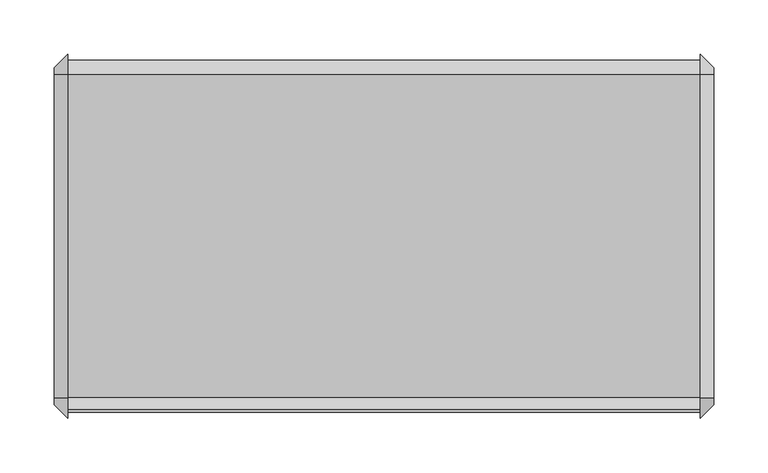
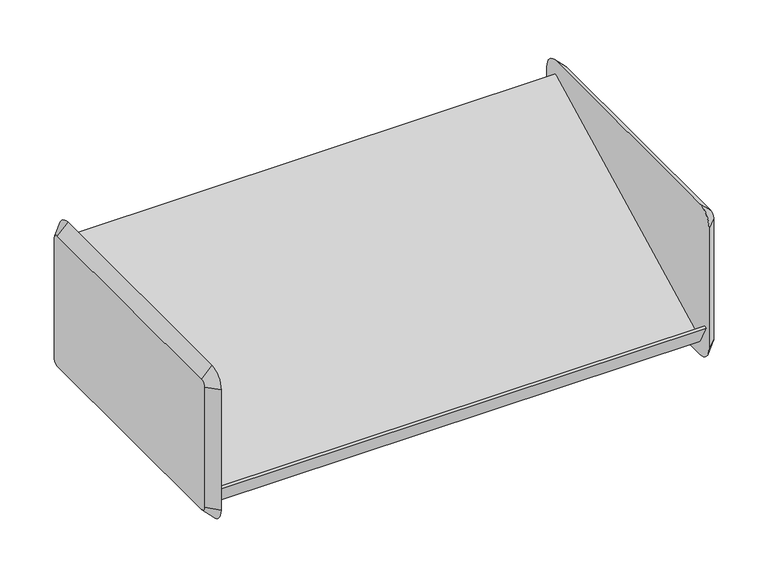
"""IFC4 building model written with IfcOpenShell, lengths in millimetres: furniture geometry."""

import ifcopenshell
import ifcopenshell.guid

model = None  # the IFC model being written
_history = None  # IfcOwnerHistory: only IFC2X3 demands one
_inside = {}  # id of a spatial element -> (the spatial element, [elements in it])
_under = {}  # id of a project, library or spatial element -> (it, [spatial elements below it])
_declared = {}  # id of a project -> (the project, [libraries it declares])
_typed = {}  # id of a type object -> (the type object, [elements of that type])
_made_of = {}  # id of a material, layer set ... -> (it, [elements and type objects made of it])


def new_model(schema):
    """Start an empty IFC model of exactly this schema.

    Asked for "IFC4X3", IfcOpenShell would pick the latest addendum, in which some entities
    have other attributes; the version numbers below select the first issue.
    IFC2X3 requires an IfcOwnerHistory on every rooted entity: one is made here for all.
    """
    global model, _history
    if schema == "IFC4X3":
        model = ifcopenshell.file(schema_version=(4, 3, 0, 0))
    else:
        model = ifcopenshell.file(schema=schema)
    _inside.clear()
    _under.clear()
    _declared.clear()
    _typed.clear()
    _made_of.clear()
    _history = None
    if model.schema == "IFC2X3":
        org = make("IfcOrganization", Name="unknown")
        user = make(
            "IfcPersonAndOrganization",
            ThePerson=make("IfcPerson", FamilyName="unknown"),
            TheOrganization=org,
        )
        app = make(
            "IfcApplication",
            ApplicationDeveloper=org,
            Version="unknown",
            ApplicationFullName="unknown",
            ApplicationIdentifier="unknown",
        )
        _history = make(
            "IfcOwnerHistory",
            OwningUser=user,
            OwningApplication=app,
            ChangeAction="ADDED",
            CreationDate=0,
        )
    return model


def make(cls, **values):
    """One entity of the class cls with the attributes given. An attribute that is None is left unset."""
    return model.create_entity(
        cls, **{name: value for name, value in values.items() if value is not None}
    )


def rooted(cls, **values):
    """An entity with a GlobalId (a new one), such as an element, a storey or a relation."""
    return make(cls, GlobalId=ifcopenshell.guid.new(), OwnerHistory=_history, **values)


def si_unit(unit_type, name, prefix=None):
    """IfcSIUnit, for example si_unit("LENGTHUNIT", "METRE", prefix="MILLI")."""
    return make("IfcSIUnit", UnitType=unit_type, Prefix=prefix, Name=name)


def assignment(units):
    """IfcUnitAssignment: the units of a project."""
    return None if units is None else make("IfcUnitAssignment", Units=units)


def point(xyz):
    """IfcCartesianPoint."""
    return None if xyz is None else make("IfcCartesianPoint", Coordinates=xyz)


def direction(xyz):
    """IfcDirection."""
    return None if xyz is None else make("IfcDirection", DirectionRatios=xyz)


def frame(location, z_axis=None, x_axis=None):
    """IfcAxis2Placement3D, a coordinate frame: its origin and axes. An axis left out is left unset."""
    return make(
        "IfcAxis2Placement3D",
        Location=point(location),
        Axis=direction(z_axis),
        RefDirection=direction(x_axis),
    )


def origin():
    """The frame at (0, 0, 0) with its axes left unset."""
    return frame((0.0, 0.0, 0.0))


def place(relative_to, where):
    """IfcLocalPlacement: puts the frame where relative to a parent placement (None: the world)."""
    return make(
        "IfcLocalPlacement", PlacementRelTo=relative_to, RelativePlacement=where
    )


def context(
    kind, dimensions, precision=None, world=None, true_north=None, identifier=None
):
    """IfcGeometricRepresentationContext, for example the 3D "Model" context."""
    return make(
        "IfcGeometricRepresentationContext",
        ContextIdentifier=identifier,
        ContextType=kind,
        CoordinateSpaceDimension=dimensions,
        Precision=precision,
        WorldCoordinateSystem=world,
        TrueNorth=true_north,
    )


def project(units=None, contexts=None):
    """IfcProject with its units and contexts."""
    return rooted(
        "IfcProject",
        Name="project",
        RepresentationContexts=contexts,
        UnitsInContext=assignment(units),
    )


def spatial(cls, under=None, at=None, **own):
    """A site, building, storey or space (cls), placed at a placement, below another one or the project."""
    s = rooted(cls, ObjectPlacement=at, **own)
    if under is not None:
        _under.setdefault(under.id(), (under, []))[1].append(s)
    return s


def polyline(points):
    """IfcPolyline through the points."""
    return make("IfcPolyline", Points=[point(p) for p in points])


def circle_curve(where, radius):
    """IfcCircle in the frame where."""
    return make("IfcCircle", Position=where, Radius=radius)


def outline(outer, holes=None, kind="AREA"):
    """IfcArbitraryClosedProfileDef: a profile drawn as a closed curve; with holes, ...WithVoids."""
    if holes is None:
        return make("IfcArbitraryClosedProfileDef", ProfileType=kind, OuterCurve=outer)
    return make(
        "IfcArbitraryProfileDefWithVoids",
        ProfileType=kind,
        OuterCurve=outer,
        InnerCurves=holes,
    )


def extrude(swept, where, along, depth):
    """IfcExtrudedAreaSolid: the profile swept, set in the frame where, extruded along a direction by depth."""
    return make(
        "IfcExtrudedAreaSolid",
        SweptArea=swept,
        Position=where,
        ExtrudedDirection=direction(along),
        Depth=depth,
    )


def shape(context_of_items, identifier, shape_type, items):
    """IfcShapeRepresentation: the items that make up one representation, for example the "Body"."""
    return make(
        "IfcShapeRepresentation",
        ContextOfItems=context_of_items,
        RepresentationIdentifier=identifier,
        RepresentationType=shape_type,
        Items=items,
    )


def source(mapping_origin, context_of_items, identifier, shape_type, items):
    """IfcRepresentationMap: a shape defined once, which mapped items show again and again."""
    return make(
        "IfcRepresentationMap",
        MappingOrigin=mapping_origin,
        MappedRepresentation=shape(context_of_items, identifier, shape_type, items),
    )


def transform(
    local_origin,
    x_axis=None,
    y_axis=None,
    z_axis=None,
    scale=None,
    scale2=None,
    scale3=None,
    uniform=True,
):
    """IfcCartesianTransformationOperator3D, or its non-uniform kind. x_axis, y_axis, z_axis: its Axis1, 2, 3."""
    if uniform:
        return make(
            "IfcCartesianTransformationOperator3D",
            Axis1=direction(x_axis),
            Axis2=direction(y_axis),
            LocalOrigin=point(local_origin),
            Scale=scale,
            Axis3=direction(z_axis),
        )
    return make(
        "IfcCartesianTransformationOperator3DnonUniform",
        Axis1=direction(x_axis),
        Axis2=direction(y_axis),
        LocalOrigin=point(local_origin),
        Scale=scale,
        Axis3=direction(z_axis),
        Scale2=scale2,
        Scale3=scale3,
    )


def mapped(mapping_source, mapping_target):
    """IfcMappedItem: shows the shape of a source again, moved by a transform."""
    return make(
        "IfcMappedItem", MappingSource=mapping_source, MappingTarget=mapping_target
    )


def made_of(thing, what):
    """Note that an element or type object is made of a material, layer set ...; save() writes the relation."""
    if what is not None:
        _made_of.setdefault(what.id(), (what, []))[1].append(thing)
    return thing


def element(
    cls,
    number,
    at=None,
    inside=None,
    cuts=None,
    type_object=None,
    material=None,
    context=None,
    identifier="Body",
    shape_type=None,
    held_by="IfcProductDefinitionShape",
    body=None,
    shapes=None,
    **own,
):
    """One element of the class cls, such as IfcWall. Its Tag is "e" and its number.

    at: its placement. inside: the storey or other place that contains it. cuts: it is an
    opening in that element (IfcRelVoidsElement). A single representation is given by context,
    identifier, shape_type and body (its items); several are given by shapes. held_by: the class
    of the entity that holds the representations. save() writes the other relations.
    """
    e = rooted(cls, Tag="e%d" % number, ObjectPlacement=at, **own)
    if body is not None:
        shapes = [shape(context, identifier, shape_type, body)]
    if shapes is not None:
        e.Representation = make(held_by, Representations=shapes)
    if inside is not None:
        _inside.setdefault(inside.id(), (inside, []))[1].append(e)
    if cuts is not None:
        rooted(
            "IfcRelVoidsElement", RelatingBuildingElement=cuts, RelatedOpeningElement=e
        )
    if type_object is not None:
        _typed.setdefault(type_object.id(), (type_object, []))[1].append(e)
    return made_of(e, material)


def aggregate(whole, parts):
    """IfcRelAggregates: a whole, such as a stair, and the parts it consists of."""
    return rooted("IfcRelAggregates", RelatingObject=whole, RelatedObjects=parts)


def save(model, path):
    """Write the relations noted so far, then the file.

    IfcRelAggregates (storeys below a building ...), IfcRelContainedInSpatialStructure (elements
    in a storey), IfcRelDefinesByType, IfcRelAssociatesMaterial and IfcRelDeclares: one each for
    every whole, place, type object, material and project.
    """
    for whole, parts in _under.values():
        aggregate(whole, parts)
    for where, things in _inside.values():
        rooted(
            "IfcRelContainedInSpatialStructure",
            RelatedElements=things,
            RelatingStructure=where,
        )
    for kind, things in _typed.values():
        rooted("IfcRelDefinesByType", RelatedObjects=things, RelatingType=kind)
    for what, things in _made_of.values():
        rooted("IfcRelAssociatesMaterial", RelatedObjects=things, RelatingMaterial=what)
    for by, libraries in _declared.values():
        rooted("IfcRelDeclares", RelatingContext=by, RelatedDefinitions=libraries)
    model.write(path)


def plane_surface(at):
    """IfcPlane: the flat surface through the origin of the frame at, square to its z axis."""
    return make("IfcPlane", Position=at)


def revolved_surface(curve, axis_point, axis_direction):
    """IfcSurfaceOfRevolution: the curve turned about the line through axis_point along axis_direction."""
    return make(
        "IfcSurfaceOfRevolution",
        SweptCurve=make("IfcArbitraryOpenProfileDef", ProfileType="CURVE", Curve=curve),
        AxisPosition=make("IfcAxis1Placement", Location=point(axis_point), Axis=direction(axis_direction)),
    )


def advanced_brep(points, edges, surfaces, faces):
    """IfcAdvancedBrep: a solid bounded by faces that lie on surfaces and meet in shared edges.

    An edge is (start, end): straight between two places in points (the first is 0);
    or (start, end, curve); or (start, end, curve, False) where it runs against its curve.
    A face is (place in surfaces, loops), or (place, loops, False) where it looks against
    its surface's normal. A loop lists edges by number (the first is 1), with a minus sign
    where the edge is run from its end to its start. The first loop is the outer one.
    """
    corners = [point(p) for p in points]
    vertices = [make("IfcVertexPoint", VertexGeometry=c) for c in corners]
    made = []
    for start, end, *more in edges:
        made.append(
            make(
                "IfcEdgeCurve",
                EdgeStart=vertices[start],
                EdgeEnd=vertices[end],
                EdgeGeometry=more[0] if more else make("IfcPolyline", Points=[corners[start], corners[end]]),
                SameSense=more[1] if len(more) > 1 else True,
            )
        )
    hull = []
    for where, loops, *sense in faces:
        bounds = []
        for j, loop in enumerate(loops):
            ring = [make("IfcOrientedEdge", EdgeElement=made[abs(k) - 1], Orientation=k > 0) for k in loop]
            bounds.append(
                make(
                    "IfcFaceOuterBound" if j == 0 else "IfcFaceBound",
                    Bound=make("IfcEdgeLoop", EdgeList=ring),
                    Orientation=True,
                )
            )
        hull.append(make("IfcAdvancedFace", Bounds=bounds, FaceSurface=surfaces[where], SameSense=sense[0] if sense else True))
    return make("IfcAdvancedBrep", Outer=make("IfcClosedShell", CfsFaces=hull))


def furniture_bda8002d(model_context):
    return source(origin(), model_context, "Body", "SolidModel", [
        advanced_brep(
        [(180.8579955, 161.925, 1689.1), (180.8579955, -136.525, 1689.1), (180.8579955, -142.875, 1682.75), (180.8579955, -142.875, 1530.35), (180.8579955, -136.525, 1524.0), (180.8579955, 161.925, 1524.0), (180.8579955, 168.275, 1530.35), (180.8579955, 168.275, 1682.75), (168.1579955, 161.925, 1701.8), (168.1579955, 180.975, 1682.75), (168.1579955, 180.975, 1530.35), (168.1579955, 161.925, 1511.3), (168.1579955, -136.525, 1511.3), (168.1579955, -155.575, 1530.35), (168.1579955, -155.575, 1682.75), (168.1579955, -136.525, 1701.8)],
        [
            (0, 1),
            (1, 2, circle_curve(frame((180.8579955, -136.525, 1682.75), z_axis=(1.0, 2.0730084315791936e-12, -2.1742607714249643e-12), x_axis=(2.1742640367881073e-12, 0.0, 1.0)), 6.35)),
            (2, 3),
            (3, 4, circle_curve(frame((180.8579955, -136.525, 1530.35), z_axis=(1.0, 2.061018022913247e-12, 2.0463630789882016e-12), x_axis=(2.0610603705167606e-12, -1.0, 0.0)), 6.35)),
            (4, 5),
            (5, 6, circle_curve(frame((180.8579955, 161.925, 1530.35), z_axis=(1.0, 2.088995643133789e-12, -2.1103119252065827e-12), x_axis=(-2.1103612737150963e-12, 0.0, -1.0)), 6.35)),
            (6, 7),
            (7, 0, circle_curve(frame((180.8579955, 161.925, 1682.75), z_axis=(1.0, 2.0783375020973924e-12, 1.9824142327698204e-12), x_axis=(-2.0783313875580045e-12, 1.0, 0.0)), 6.35)),
            (8, 9, circle_curve(frame((168.1579955, 161.925, 1682.75), z_axis=(-1.0, -2.0783375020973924e-12, -1.9824142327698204e-12), x_axis=(-2.0783313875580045e-12, 1.0, 0.0)), 19.05)),
            (9, 10),
            (10, 11, circle_curve(frame((168.1579955, 161.925, 1530.35), z_axis=(-1.0, -2.088995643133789e-12, 2.1103119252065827e-12), x_axis=(-2.1103612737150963e-12, 0.0, -1.0)), 19.05)),
            (11, 12),
            (12, 13, circle_curve(frame((168.1579955, -136.525, 1530.35), z_axis=(-1.0, -2.061018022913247e-12, -2.0463630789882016e-12), x_axis=(2.0610603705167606e-12, -1.0, 0.0)), 19.05)),
            (13, 14),
            (14, 15, circle_curve(frame((168.1579955, -136.525, 1682.75), z_axis=(-1.0, -2.0730084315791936e-12, 2.1742607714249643e-12), x_axis=(2.1742640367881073e-12, 0.0, 1.0)), 19.05)),
            (15, 8),
            (15, 1),
            (0, 8),
            (14, 2),
            (13, 3),
            (12, 4),
            (11, 5),
            (10, 6),
            (9, 7),
        ],
        [
            plane_surface(frame((180.8579955, 12.7, 1606.55), z_axis=(1.0, 0.0, 0.0), x_axis=(0.0, -1.0, 0.0))),
            plane_surface(frame((168.1579955, 12.7, 1606.55), z_axis=(-1.0, 0.0, 0.0), x_axis=(0.0, -1.0, 0.0))),
            plane_surface(frame((168.1579955, 12.7, 1701.8), z_axis=(0.7071067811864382, 0.0, 0.7071067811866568), x_axis=(0.0, -1.0, 0.0))),
            revolved_surface(polyline([(180.8579955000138, -136.525, 1689.0999999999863), (168.1579955, -136.525, 1701.8)]), (187.2079955, -136.525, 1682.75), (-1.0, -2.0730084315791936e-12, 2.1742607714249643e-12)),
            plane_surface(frame((168.1579955, -155.575, 1606.55), z_axis=(0.707106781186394, -0.7071067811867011, 0.0), x_axis=(0.0, 0.0, -1.0))),
            revolved_surface(polyline([(180.85799550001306, -142.87499999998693, 1530.35), (168.1579955, -155.575, 1530.35)]), (187.2079955, -136.525, 1530.35), (-1.0, -2.061018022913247e-12, -2.0463630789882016e-12)),
            plane_surface(frame((168.1579955, 12.7, 1511.3), z_axis=(0.7071067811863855, 0.0, -0.7071067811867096), x_axis=(0.0, 1.0, 0.0))),
            revolved_surface(polyline([(180.8579955, 161.925, 1524.0), (168.15799549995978, 161.925, 1511.2999999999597)]), (187.2079955, 161.925, 1530.35), (-1.0, -2.088995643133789e-12, 2.1103119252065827e-12)),
            plane_surface(frame((168.1579955, 180.975, 1606.55), z_axis=(0.707106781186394, 0.7071067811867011, 0.0), x_axis=(0.0, 0.0, 1.0))),
            revolved_surface(polyline([(180.8579955, 168.27500000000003, 1682.75), (168.1579954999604, 180.97500000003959, 1682.75)]), (187.2079955, 161.925, 1682.75), (-1.0, -2.0783375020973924e-12, -1.9824142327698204e-12)),
        ],
        [
            (0, [[1, 2, 3, 4, 5, 6, 7, 8]]),
            (1, [[9, 10, 11, 12, 13, 14, 15, 16]]),
            (2, [[-16, 17, -1, 18]]),
            (3, [[-15, 19, -2, -17]]),
            (4, [[-14, 20, -3, -19]]),
            (5, [[-13, 21, -4, -20]]),
            (6, [[-12, 22, -5, -21]]),
            (7, [[-11, 23, -6, -22]]),
            (8, [[-10, 24, -7, -23]]),
            (9, [[-9, -18, -8, -24]]),
        ],
    ),
        advanced_brep(
        [(-428.7420045, -136.525, 1689.1), (-428.7420045, 161.925, 1689.1), (-428.7420045, 168.275, 1682.75), (-428.7420045, 168.275, 1530.35), (-428.7420045, 161.925, 1524.0), (-428.7420045, -136.525, 1524.0), (-428.7420045, -142.875, 1530.35), (-428.7420045, -142.875, 1682.75), (-416.0420045, -136.525, 1701.8), (-416.0420045, -155.575, 1682.75), (-416.0420045, -155.575, 1530.35), (-416.0420045, -136.525, 1511.3), (-416.0420045, 161.925, 1511.3), (-416.0420045, 180.975, 1530.35), (-416.0420045, 180.975, 1682.75), (-416.0420045, 161.925, 1701.8)],
        [
            (0, 1),
            (1, 2, circle_curve(frame((-428.7420045, 161.925, 1682.75), z_axis=(-1.0, 0.0, 0.0), x_axis=(0.0, 0.0, 1.0)), 6.35)),
            (2, 3),
            (3, 4, circle_curve(frame((-428.7420045, 161.925, 1530.35), z_axis=(-1.0, 0.0, 0.0), x_axis=(0.0, 1.0, 0.0)), 6.35)),
            (4, 5),
            (5, 6, circle_curve(frame((-428.7420045, -136.525, 1530.35), z_axis=(-1.0, 0.0, 0.0), x_axis=(0.0, 0.0, -1.0)), 6.35)),
            (6, 7),
            (7, 0, circle_curve(frame((-428.7420045, -136.525, 1682.75), z_axis=(-1.0, 0.0, 0.0), x_axis=(0.0, -1.0, 0.0)), 6.35)),
            (8, 9, circle_curve(frame((-416.0420045, -136.525, 1682.75), z_axis=(1.0, 0.0, 0.0), x_axis=(0.0, -1.0, 0.0)), 19.05)),
            (9, 10),
            (10, 11, circle_curve(frame((-416.0420045, -136.525, 1530.35), z_axis=(1.0, 0.0, 0.0), x_axis=(0.0, 0.0, -1.0)), 19.05)),
            (11, 12),
            (12, 13, circle_curve(frame((-416.0420045, 161.925, 1530.35), z_axis=(1.0, 0.0, 0.0), x_axis=(0.0, 1.0, 0.0)), 19.05)),
            (13, 14),
            (14, 15, circle_curve(frame((-416.0420045, 161.925, 1682.75), z_axis=(1.0, 0.0, 0.0), x_axis=(0.0, 0.0, 1.0)), 19.05)),
            (15, 8),
            (15, 1),
            (0, 8),
            (14, 2),
            (13, 3),
            (12, 4),
            (11, 5),
            (10, 6),
            (9, 7),
        ],
        [
            plane_surface(frame((-428.7420045, 12.7, 1606.55), z_axis=(-1.0, 0.0, 0.0), x_axis=(0.0, -1.0, 0.0))),
            plane_surface(frame((-416.0420045, 12.7, 1606.55), z_axis=(1.0, 0.0, 0.0), x_axis=(0.0, -1.0, 0.0))),
            plane_surface(frame((-416.0420045, 12.7, 1701.8), z_axis=(-0.7071067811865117, 0.0, 0.7071067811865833), x_axis=(0.0, 1.0, 0.0))),
            revolved_surface(polyline([(-428.7420045, 161.925, 1689.1), (-416.0420045, 161.925, 1701.8)]), (-435.0920045, 161.925, 1682.75), (1.0, 0.0, 0.0)),
            plane_surface(frame((-416.0420045, 180.975, 1606.55), z_axis=(-0.7071067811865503, 0.7071067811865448, 0.0), x_axis=(0.0, 0.0, -1.0))),
            revolved_surface(polyline([(-428.7420045, 168.27499999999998, 1530.35), (-416.0420045, 180.975, 1530.35)]), (-435.0920045, 161.925, 1530.35), (1.0, 0.0, 0.0)),
            plane_surface(frame((-416.0420045, 12.7, 1511.3), z_axis=(-0.7071067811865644, 0.0, -0.7071067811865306), x_axis=(0.0, -1.0, 0.0))),
            revolved_surface(polyline([(-428.7420045, -136.525, 1524.0), (-416.0420045, -136.525, 1511.3)]), (-435.0920045, -136.525, 1530.35), (1.0, 0.0, 0.0)),
            plane_surface(frame((-416.0420045, -155.575, 1606.55), z_axis=(-0.7071067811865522, -0.7071067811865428, 0.0), x_axis=(0.0, 0.0, 1.0))),
            revolved_surface(polyline([(-428.7420045, -142.87499999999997, 1682.75), (-416.0420045, -155.575, 1682.75)]), (-435.0920045, -136.525, 1682.75), (1.0, 0.0, 0.0)),
        ],
        [
            (0, [[1, 2, 3, 4, 5, 6, 7, 8]]),
            (1, [[9, 10, 11, 12, 13, 14, 15, 16]]),
            (2, [[-16, 17, -1, 18]]),
            (3, [[-15, 19, -2, -17]]),
            (4, [[-14, 20, -3, -19]]),
            (5, [[-13, 21, -4, -20]]),
            (6, [[-12, 22, -5, -21]]),
            (7, [[-11, 23, -6, -22]]),
            (8, [[-10, 24, -7, -23]]),
            (9, [[-9, -18, -8, -24]]),
        ],
    ),
        extrude(outline(polyline([(-137.2094993, 1528.2179666), (-149.845093, 1552.6467844), (-147.0173828, 1554.0907216), (-135.8404765, 1532.4820334), (162.5893131, 1684.8717194), (175.2453599, 1661.2470972), (172.4171401, 1659.8028998), (161.2606869, 1680.6282806), (-137.2094993, 1528.2179666)])), frame((-416.0420045, 0.0, 0.0), z_axis=(1.0, 0.0, 0.0), x_axis=(0.0, 1.0, 0.0)), (0.0, 0.0, 1.0), 584.2),
    ])


if __name__ == "__main__":
    model = new_model("IFC4")
    model_context = context("Model", 3, world=origin())
    ifc_project = project(units=[si_unit("LENGTHUNIT", "METRE", prefix="MILLI")], contexts=[model_context])
    site = spatial("IfcSite", under=ifc_project)
    building = spatial("IfcBuilding", under=site)
    placement = place(None, origin())
    furniture_shape = furniture_bda8002d(model_context)
    element("IfcFurniture", 1, ObjectType="HermanMiller_ActionOffice_A3220_B-StyleStorageDisplay : Display 13\"D x 24\"W", at=placement, inside=building, context=model_context, shape_type="MappedRepresentation", body=[
        mapped(furniture_shape, transform((0.0, 0.0, 0.0), x_axis=(1.0, 0.0, 0.0), y_axis=(0.0, 1.0, 0.0), z_axis=(0.0, 0.0, 1.0))),
    ])
    save(model, "model.ifc")
